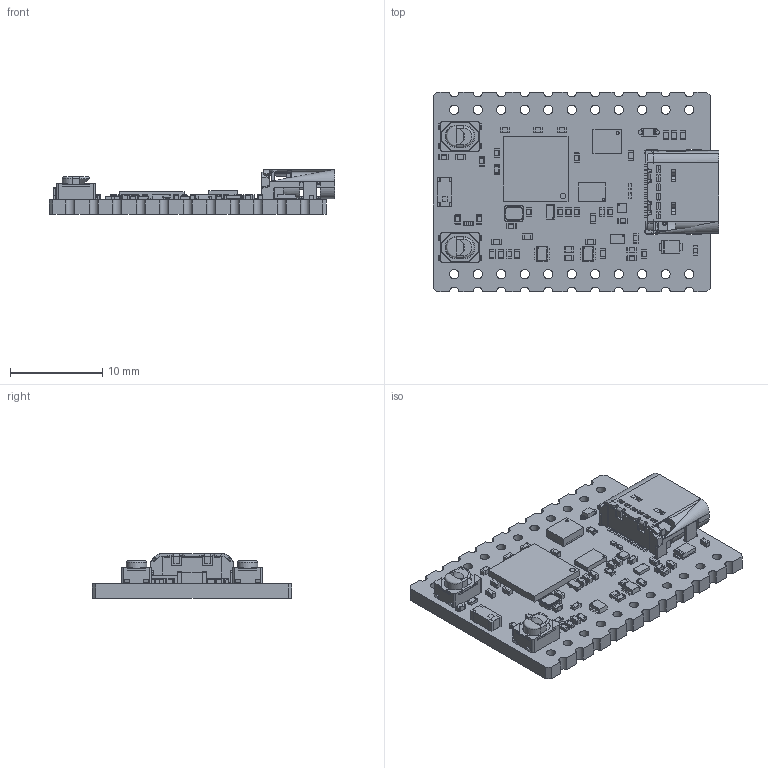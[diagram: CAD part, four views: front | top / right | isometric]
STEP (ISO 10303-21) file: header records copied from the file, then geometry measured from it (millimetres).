
FILE_DESCRIPTION(('Open CASCADE Model'),'2;1');
FILE_NAME('Open CASCADE Shape Model','2023-02-13T10:03:26',('Author'),( 'Open CASCADE'),'Open CASCADE STEP processor 7.5','Open CASCADE 7.5' ,'Unknown');
FILE_SCHEMA(('AUTOMOTIVE_DESIGN { 1 0 10303 214 1 1 1 1 }'));
Products named in the file (1): PCB
Bounding box: 30.93 x 21.59 x 4.84 mm (x, y, z)
Volume: 1076.7 mm3; surface area: 2828.2 mm2
Topology: 303 solids, 1345 shells, 4471 faces, 13372 edges, 10183 vertices
Faces by surface type: plane 3017, cylinder 1132, sphere 264, torus 24, bspline 18, cone 16
Full cylindrical faces by diameter (mm): 0.125 x1, 0.15 x3, 0.325 x1, 0.5 x2, 0.6 x2, 0.8 x2, 1 x22, 1.96 x1, 2.2 x2, 2.56 x1
Entity records: 158066 total; most frequent: CARTESIAN_POINT 29690, DIRECTION 24555, ORIENTED_EDGE 20362, EDGE_CURVE 12936, VERTEX_POINT 10147, LINE 9975, VECTOR 9975, AXIS2_PLACEMENT_3D 7290
